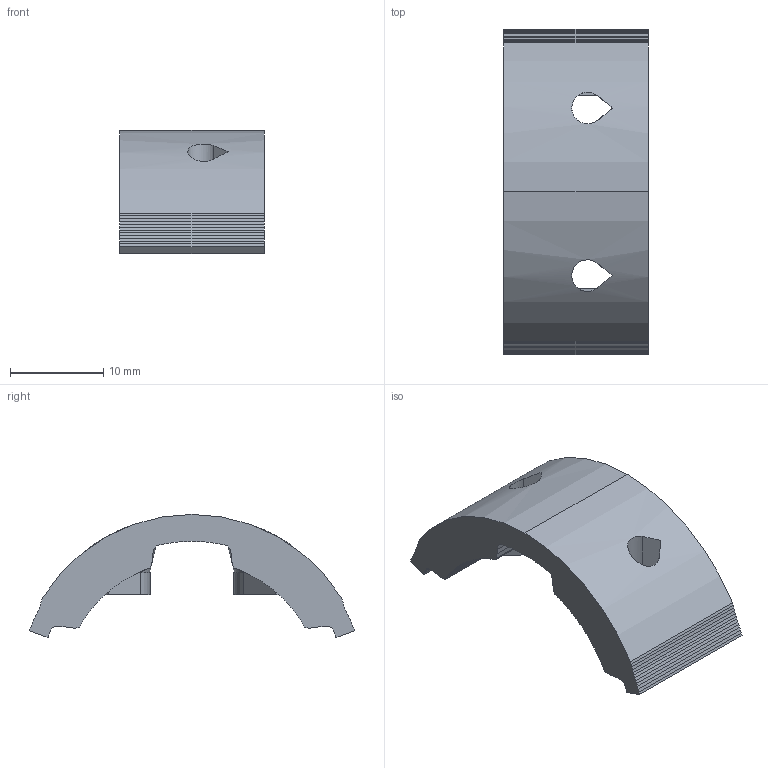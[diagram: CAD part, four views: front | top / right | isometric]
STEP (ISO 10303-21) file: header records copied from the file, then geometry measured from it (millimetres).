
FILE_DESCRIPTION(('SkyG Speed 90B - revision C6B-23 - 2026-10-17','NP2-nut-plate-rear'),'2;1');
FILE_NAME('NP2-nut-plate-rear_C6B-23','2026-10-17T13:26:41',('Author'),( 'Open CASCADE'),'Open CASCADE STEP processor 7.9','Open CASCADE 7.9' ,'Unknown');
FILE_SCHEMA(('AUTOMOTIVE_DESIGN { 1 0 10303 214 1 1 1 1 }'));
Length unit declared in the file: millimetre
Products named in the file (1): NP2-nut-plate-rear C6B-23
Bounding box: 15.5 x 34.92 x 13.22 mm (x, y, z)
Volume: 2519.3 mm3; surface area: 1998 mm2
Topology: 1 solids, 1 shells, 270 faces, 808 edges, 540 vertices
Faces by surface type: plane 260, cylinder 6, bspline 2, cone 2
Entity records: 19760 total; most frequent: CARTESIAN_POINT 4373, DIRECTION 2612, LINE 1782, VECTOR 1782, ORIENTED_EDGE 1616, PCURVE 1616, DEFINITIONAL_REPRESENTATION 1616, EDGE_CURVE 808
